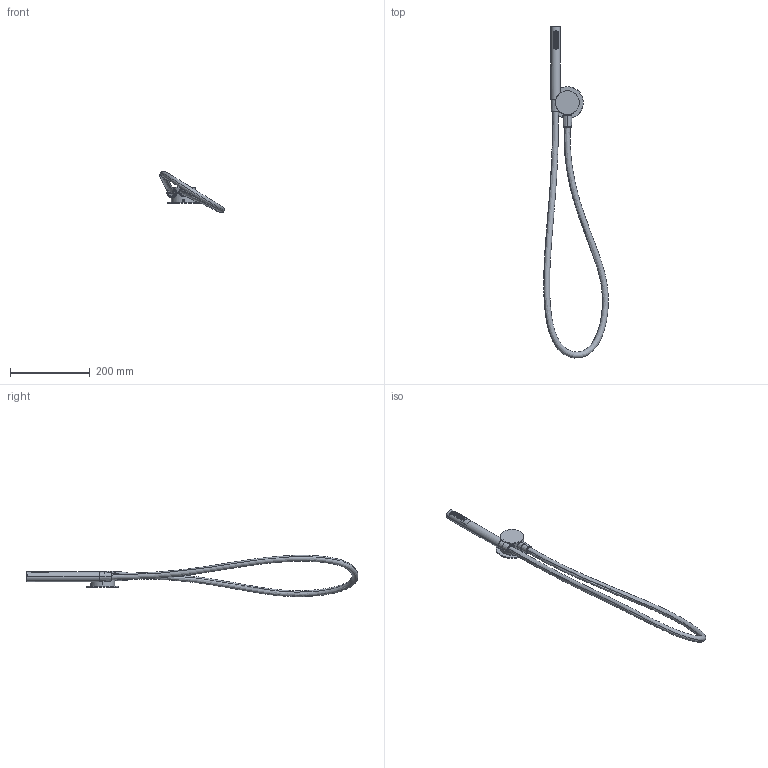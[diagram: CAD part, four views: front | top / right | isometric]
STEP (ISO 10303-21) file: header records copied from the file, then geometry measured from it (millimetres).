
FILE_DESCRIPTION((''),'2;1');
FILE_NAME('0000192127','2023-09-27T14:54:35',('matteo.follador'),(''),'CREO PARAMETRIC BY PTC INC, 2022424','CREO PARAMETRIC BY PTC INC, 2022424','');
FILE_SCHEMA(('AUTOMOTIVE_DESIGN { 1 0 10303 214 1 1 1 1 }'));
Length unit declared in the file: millimetre
Products named in the file (1): 0000192127
Bounding box: 161.57 x 830.11 x 103.42 mm (x, y, z)
Volume: 367565.3 mm3; surface area: 115952.8 mm2
Topology: 1 solids, 1 shells, 372 faces, 795 edges, 525 vertices
Faces by surface type: cylinder 270, plane 59, cone 37, torus 4, bspline 2
Entity records: 18620 total; most frequent: CARTESIAN_POINT 8342, ORIENTED_EDGE 1590, DIRECTION 1566, EDGE_CURVE 795, AXIS2_PLACEMENT_3D 648, VERTEX_POINT 525, EDGE_LOOP 476, FACE_OUTER_BOUND 372
